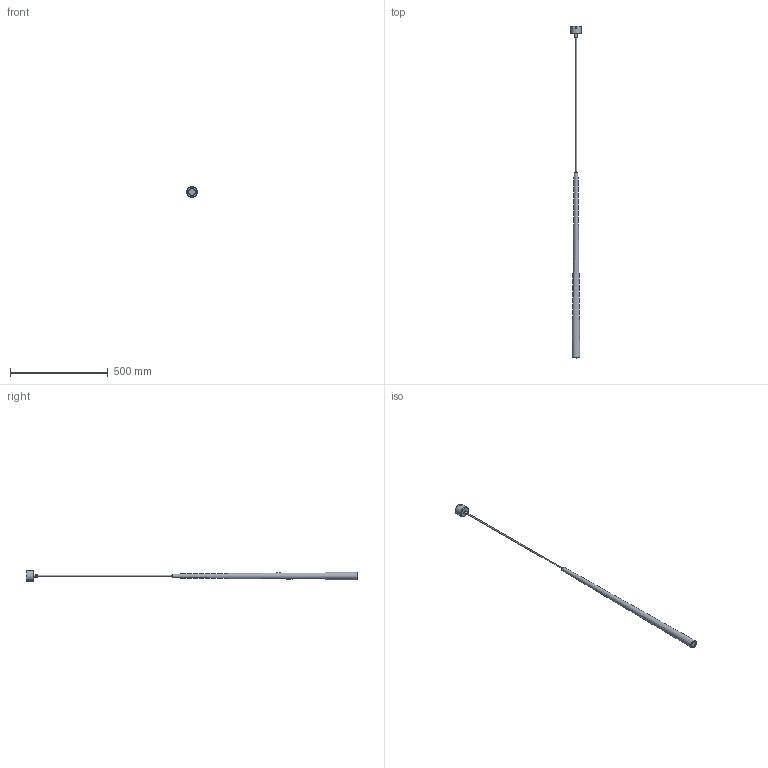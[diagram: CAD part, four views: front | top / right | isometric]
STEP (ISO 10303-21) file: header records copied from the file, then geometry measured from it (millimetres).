
FILE_DESCRIPTION(/* description */ (''),/* implementation_level */ '2;1');
FILE_NAME(/* name */ 'C:/Users/kubaw/OneDrive/Pulpit/Nowy folder (3)/6410_PIANO v3.step',/* time_stamp */ '2021-12-11T11:42:21+01:00',/* author */ (''),/* organization */ (''),/* preprocessor_version */ 'ST-DEVELOPER v18.1',/* originating_system */ 'Autodesk Translation Framework v10.10.0.1391',/* authorisation */ '');
FILE_SCHEMA (('AUTOMOTIVE_DESIGN { 1 0 10303 214 3 1 1 }'));
Length unit declared in the file: millimetre
Products named in the file (2): 6410_PIANO; ŚRUBA_P
Assembly tree (2 placements, depth 2):
  6410_PIANO
    ŚRUBA_P  x2
Bounding box: 55 x 1700 x 57.34 mm (x, y, z)
Volume: 807244.6 mm3; surface area: 118595.7 mm2
Topology: 10 solids, 10 shells, 76 faces, 158 edges, 105 vertices
Faces by surface type: plane 51, cylinder 14, torus 5, bspline 3, cone 3
Full cylindrical faces by diameter (mm): 6 x2, 7.68 x2, 37 x1, 55 x1
Entity records: 1548 total; most frequent: CARTESIAN_POINT 348, DIRECTION 250, ORIENTED_EDGE 208, EDGE_CURVE 104, AXIS2_PLACEMENT_3D 101, VERTEX_POINT 69, EDGE_LOOP 57, FACE_OUTER_BOUND 54
